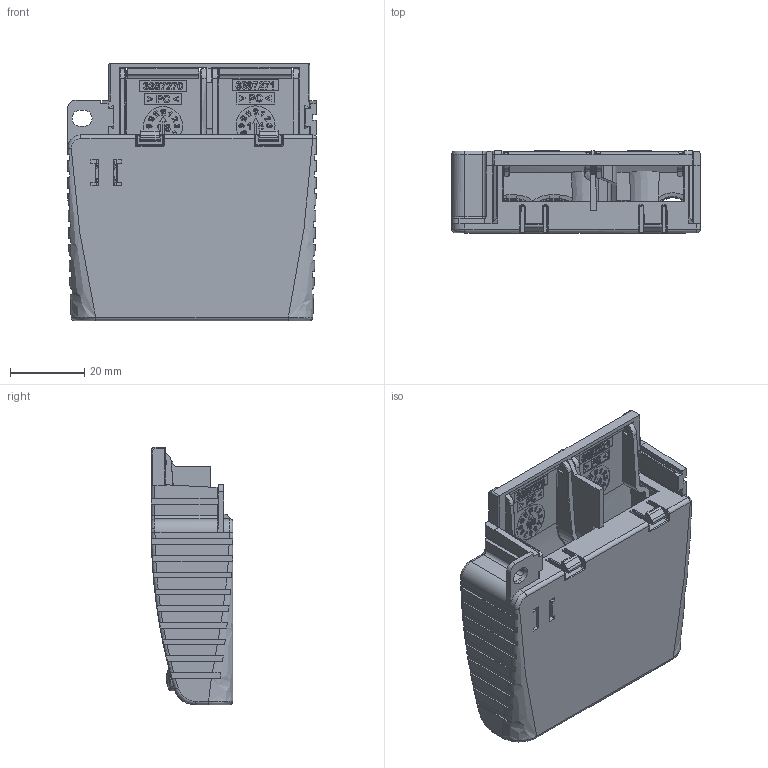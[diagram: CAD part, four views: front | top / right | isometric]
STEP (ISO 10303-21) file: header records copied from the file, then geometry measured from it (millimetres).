
FILE_DESCRIPTION (( 'STEP AP214' ), '1' );
FILE_NAME ('Cable Clamp Low Profile.STEP', '2017-08-22T10:08:08', ( '' ), ( '' ), 'SwSTEP 2.0', 'SolidWorks 2015', '' );
FILE_SCHEMA (( 'AUTOMOTIVE_DESIGN' ));
Length unit declared in the file: millimetre
Products named in the file (1): Cable Clamp Low Profile
Bounding box: 66.99 x 22.07 x 69.3 mm (x, y, z)
Volume: 27139.7 mm3; surface area: 33383.3 mm2
Topology: 1 solids, 22 shells, 3318 faces, 8972 edges, 5721 vertices
Faces by surface type: plane 1364, bspline 939, cylinder 617, cone 254, torus 97, sphere 47
Entity records: 182915 total; most frequent: CARTESIAN_POINT 72557, ORIENTED_EDGE 17848, DIRECTION 11706, EDGE_CURVE 8924, VERTEX_POINT 5717, LINE 4434, VECTOR 4434, AXIS2_PLACEMENT_3D 3636
